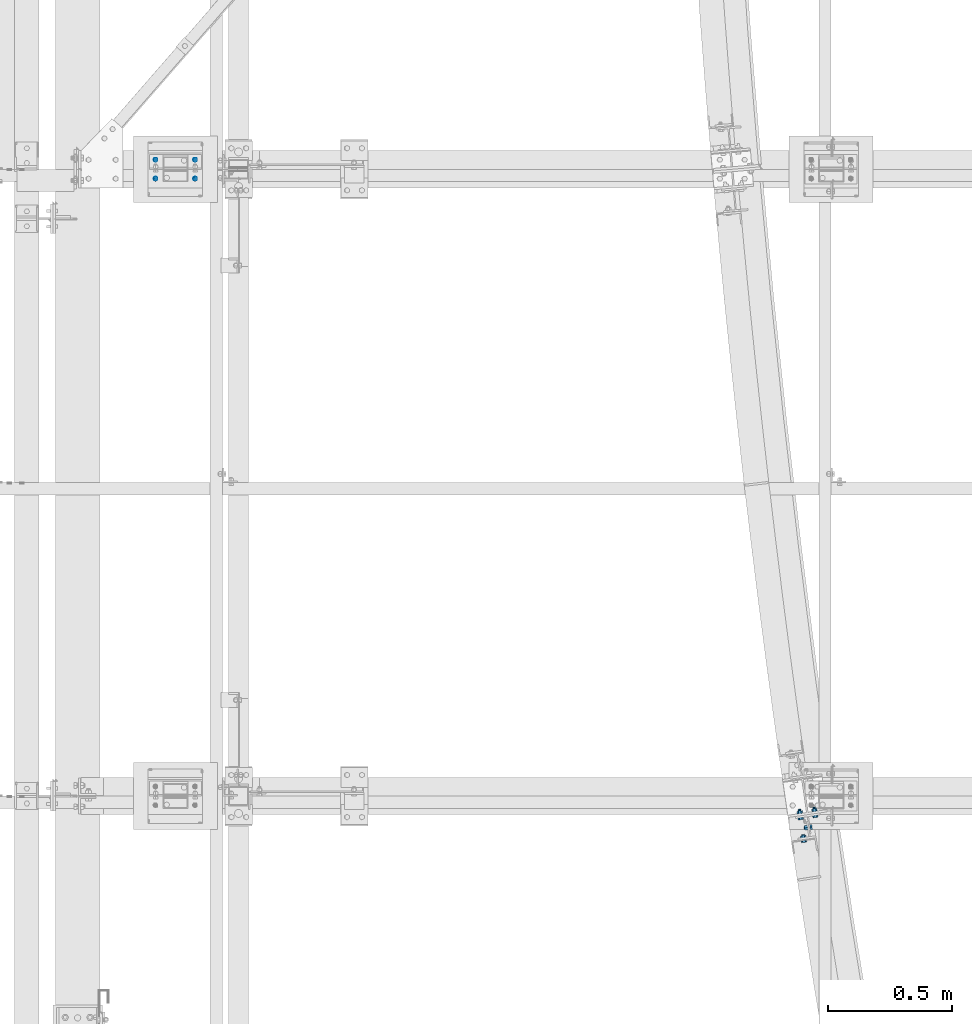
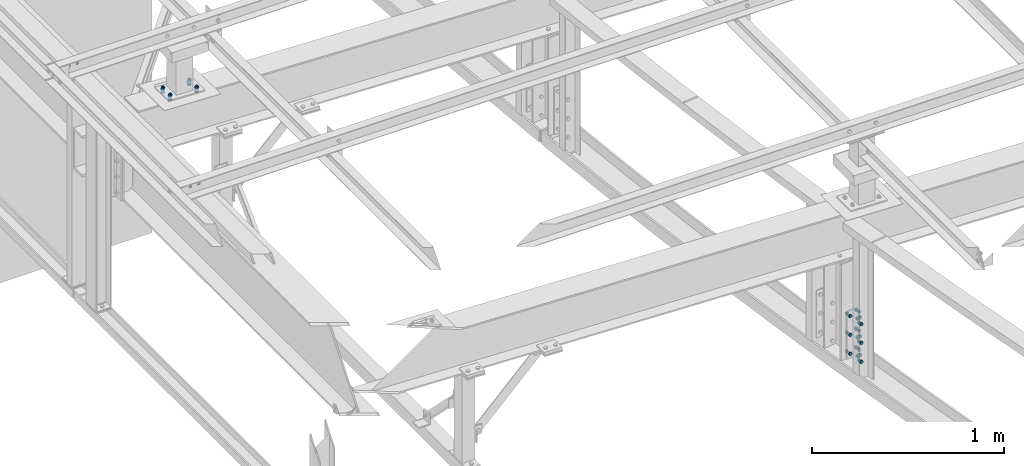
# One storey, part 71 of 3134: 5 mechanical fasteners, 4 elements without a shape of their own.
"""IFC2X3 building model written with IfcOpenShell, lengths in millimetres."""

from ifc_helpers import new_model, si_unit, frame, origin_with_axes, place, context, subcontext, project, spatial, faceted_brep, source, transform, mapped, material, type_object, element, aggregate, save


model = new_model("IFC2X3")

# Units and contexts
model_context = context("Model", 3, precision=1e-05, world=origin_with_axes())
body_context = subcontext(model_context, "Body", "Model", "MODEL_VIEW")
ifc_project = project(units=[si_unit("LENGTHUNIT", "METRE", prefix="MILLI"), si_unit("AREAUNIT", "SQUARE_METRE"), si_unit("VOLUMEUNIT", "CUBIC_METRE"), si_unit("MASSUNIT", "GRAM", prefix="KILO"), si_unit("TIMEUNIT", "SECOND"), si_unit("PLANEANGLEUNIT", "RADIAN"), si_unit("SOLIDANGLEUNIT", "STERADIAN"), si_unit("THERMODYNAMICTEMPERATUREUNIT", "DEGREE_CELSIUS"), si_unit("LUMINOUSINTENSITYUNIT", "LUMEN")], contexts=[model_context])

# Site, building, storey
site_placement = place(None, origin_with_axes())
site = spatial("IfcSite", under=ifc_project, at=site_placement, CompositionType="ELEMENT")
building_placement = place(site_placement, origin_with_axes())
building = spatial("IfcBuilding", under=site, at=building_placement, Name="Undefined", CompositionType="ELEMENT")
storey_placement = place(building_placement, origin_with_axes())
storey = spatial("IfcBuildingStorey", under=building, at=storey_placement, Name="Undefined", CompositionType="ELEMENT", Elevation=0.0)

# Assembly, mechanical fasteners
assembly_1_placement = place(storey_placement, origin_with_axes())
assembly_1 = element("IfcElementAssembly", 1, at=assembly_1_placement, inside=storey, AssemblyPlace="NOTDEFINED", PredefinedType="RIGID_FRAME")
ifc_material = material(Name="8.8")
mechanical_fastener_type = type_object("IfcMechanicalFastenerType", Name="Bolt assembly")
shared_shape_1 = source(origin_with_axes(), body_context, "Body", "Brep", [
    faceted_brep([(10.9696551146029, -12.9998476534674, 0.0), (5.48482755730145, -12.9998476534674, 9.5), (-5.48482755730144, -12.9998476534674, 9.5), (-10.9696551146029, -12.9998476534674, 1.34339530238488e-15), (-5.48482755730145, -12.9998476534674, -9.5), (5.48482755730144, -12.9998476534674, -9.50000000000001), (5.48482755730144, -4.99984765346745, -9.50000000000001), (-5.48482755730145, -4.99984765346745, -9.5), (-10.9696551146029, -4.99984765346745, 1.34339530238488e-15), (-5.48482755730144, -4.99984765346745, 9.5), (5.48482755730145, -4.99984765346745, 9.5), (10.9696551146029, -4.99984765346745, 0.0), (6.0, -4.99984765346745, 0.0), (5.19615242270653, -4.99984765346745, 3.00000000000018), (2.99999999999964, -4.99984765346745, 5.19615242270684), (-6.21801588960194e-13, -4.99984765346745, 6.0), (-3.00000000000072, -4.99984765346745, 5.19615242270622), (-5.19615242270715, -4.99984765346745, 2.9999999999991), (-6.0, -4.99984765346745, -1.24360317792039e-12), (-5.19615242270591, -4.99984765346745, -3.00000000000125), (-2.99999999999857, -4.99984765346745, -5.19615242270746), (1.85874342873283e-12, -4.99984765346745, -6.0), (3.00000000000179, -4.99984765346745, -5.1961524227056), (5.19615242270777, -4.99984765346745, -2.99999999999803), (5.19615242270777, 20.0001523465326, -2.99999999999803), (3.00000000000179, 20.0001523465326, -5.1961524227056), (1.85874342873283e-12, 20.0001523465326, -6.0), (-2.99999999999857, 20.0001523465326, -5.19615242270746), (-5.19615242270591, 20.0001523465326, -3.00000000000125), (-6.0, 20.0001523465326, -1.24360317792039e-12), (-5.19615242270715, 20.0001523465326, 2.9999999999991), (-3.00000000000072, 20.0001523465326, 5.19615242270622), (-6.21801588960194e-13, 20.0001523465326, 6.0), (2.99999999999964, 20.0001523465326, 5.19615242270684), (5.19615242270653, 20.0001523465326, 3.00000000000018), (6.0, 20.0001523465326, 0.0), (10.9696551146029, 4.99208388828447, 0.0), (5.48482755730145, 4.99208388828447, 9.5), (-5.48482755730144, 4.99208388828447, 9.5), (-10.9696551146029, 4.99208388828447, 1.34339530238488e-15), (-5.48482755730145, 4.99208388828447, -9.5), (5.48482755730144, 4.99208388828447, -9.50000000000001), (5.48482755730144, 14.9920838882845, -9.50000000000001), (-5.48482755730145, 14.9920838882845, -9.5), (-10.9696551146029, 14.9920838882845, 1.34339530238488e-15), (-5.48482755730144, 14.9920838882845, 9.5), (5.48482755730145, 14.9920838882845, 9.5), (10.9696551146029, 14.9920838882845, 0.0)], [[[0, 1, 2, 3, 4, 5]], [[6, 7, 8, 9, 10, 11]], [[0, 11, 10, 1]], [[1, 10, 9, 2]], [[2, 9, 8, 3]], [[3, 8, 7, 4]], [[4, 7, 6, 5]], [[5, 6, 11, 0]], [[12, 13, 14, 15, 16, 17, 18, 19, 20, 21, 22, 23]], [[24, 25, 26, 27, 28, 29, 30, 31, 32, 33, 34, 35]], [[12, 35, 34, 13]], [[13, 34, 33, 14]], [[14, 33, 32, 15]], [[15, 32, 31, 16]], [[16, 31, 30, 17]], [[17, 30, 29, 18]], [[18, 29, 28, 19]], [[19, 28, 27, 20]], [[20, 27, 26, 21]], [[21, 26, 25, 22]], [[22, 25, 24, 23]], [[23, 24, 35, 12]], [[36, 37, 38, 39, 40, 41]], [[42, 43, 44, 45, 46, 47]], [[36, 47, 46, 37]], [[37, 46, 45, 38]], [[38, 45, 44, 39]], [[39, 44, 43, 40]], [[40, 43, 42, 41]], [[41, 42, 47, 36]]]),
    faceted_brep([(7.0, -4.89984765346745, 0.0), (6.06217782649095, -4.89984765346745, 3.50000000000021), (3.49999999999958, -4.89984765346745, 6.06217782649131), (-7.25435187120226e-13, -4.89984765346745, 7.0), (-3.50000000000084, -4.89984765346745, 6.06217782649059), (-6.06217782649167, -4.89984765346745, 3.49999999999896), (-7.0, -4.89984765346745, -1.45087037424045e-12), (-6.06217782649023, -4.89984765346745, -3.50000000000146), (-3.49999999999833, -4.89984765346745, -6.06217782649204), (2.1685340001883e-12, -4.89984765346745, -7.0), (3.50000000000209, -4.89984765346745, -6.06217782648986), (6.0621778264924, -4.89984765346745, -3.4999999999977), (6.0621778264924, -0.899847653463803, -3.4999999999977), (3.50000000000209, -0.899847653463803, -6.06217782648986), (2.1685340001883e-12, -0.899847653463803, -7.0), (-3.49999999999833, -0.899847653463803, -6.06217782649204), (-6.06217782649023, -0.899847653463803, -3.50000000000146), (-7.0, -0.899847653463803, -1.45087037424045e-12), (-6.06217782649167, -0.899847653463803, 3.49999999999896), (-3.50000000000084, -0.899847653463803, 6.06217782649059), (-7.25435187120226e-13, -0.899847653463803, 7.0), (3.49999999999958, -0.899847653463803, 6.06217782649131), (6.06217782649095, -0.899847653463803, 3.50000000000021), (7.0, -0.899847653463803, 0.0), (7.0, -1.10791611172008, 0.0), (6.06217782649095, -1.10791611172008, 3.50000000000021), (3.49999999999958, -1.10791611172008, 6.06217782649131), (-7.25435187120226e-13, -1.10791611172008, 7.0), (-3.50000000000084, -1.10791611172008, 6.06217782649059), (-6.06217782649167, -1.10791611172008, 3.49999999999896), (-7.0, -1.10791611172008, -1.45087037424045e-12), (-6.06217782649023, -1.10791611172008, -3.50000000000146), (-3.49999999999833, -1.10791611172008, -6.06217782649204), (2.1685340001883e-12, -1.10791611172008, -7.0), (3.50000000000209, -1.10791611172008, -6.06217782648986), (6.0621778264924, -1.10791611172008, -3.4999999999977), (6.0621778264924, 4.99208388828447, -3.4999999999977), (3.50000000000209, 4.99208388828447, -6.06217782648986), (2.1685340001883e-12, 4.99208388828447, -7.0), (-3.49999999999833, 4.99208388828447, -6.06217782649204), (-6.06217782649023, 4.99208388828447, -3.50000000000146), (-7.0, 4.99208388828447, -1.45087037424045e-12), (-6.06217782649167, 4.99208388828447, 3.49999999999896), (-3.50000000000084, 4.99208388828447, 6.06217782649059), (-7.25435187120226e-13, 4.99208388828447, 7.0), (3.49999999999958, 4.99208388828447, 6.06217782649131), (6.06217782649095, 4.99208388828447, 3.50000000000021), (7.0, 4.99208388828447, 0.0)], [[[0, 1, 2, 3, 4, 5, 6, 7, 8, 9, 10, 11]], [[12, 13, 14, 15, 16, 17, 18, 19, 20, 21, 22, 23]], [[0, 23, 22, 1]], [[1, 22, 21, 2]], [[2, 21, 20, 3]], [[3, 20, 19, 4]], [[4, 19, 18, 5]], [[5, 18, 17, 6]], [[6, 17, 16, 7]], [[7, 16, 15, 8]], [[8, 15, 14, 9]], [[9, 14, 13, 10]], [[10, 13, 12, 11]], [[11, 12, 23, 0]], [[24, 25, 26, 27, 28, 29, 30, 31, 32, 33, 34, 35]], [[36, 37, 38, 39, 40, 41, 42, 43, 44, 45, 46, 47]], [[24, 47, 46, 25]], [[25, 46, 45, 26]], [[26, 45, 44, 27]], [[27, 44, 43, 28]], [[28, 43, 42, 29]], [[29, 42, 41, 30]], [[30, 41, 40, 31]], [[31, 40, 39, 32]], [[32, 39, 38, 33]], [[33, 38, 37, 34]], [[34, 37, 36, 35]], [[35, 36, 47, 24]]]),
])
mechanical_fastener_1_placement = place(assembly_1_placement, frame((2932.20668786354, 26869.2234813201, 3170.0), z_axis=(0.0, 0.0, 1.0), x_axis=(0.989606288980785, 0.143803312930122, 0.0)))
mechanical_fastener_1 = element("IfcMechanicalFastener", 2, at=mechanical_fastener_1_placement, type_object=mechanical_fastener_type, material=ifc_material, Name="Bolt assembly", NominalDiameter=12.0, NominalLength=25.0, context=body_context, shape_type="MappedRepresentation", body=[
    mapped(shared_shape_1, transform((0.0, 0.0, -120.0))),
    mapped(shared_shape_1, transform((0.0, 0.0, 0.0))),
    mapped(shared_shape_1, transform((0.0, 0.0, 120.0))),
])
shared_shape_2 = source(origin_with_axes(), body_context, "Body", "Brep", [
    faceted_brep([(10.9696551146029, -10.499999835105, 0.0), (5.48482755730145, -10.499999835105, 9.5), (-5.48482755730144, -10.499999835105, 9.5), (-10.9696551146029, -10.499999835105, 1.34339530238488e-15), (-5.48482755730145, -10.499999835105, -9.5), (5.48482755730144, -10.499999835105, -9.50000000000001), (5.48482755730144, -2.49999983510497, -9.50000000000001), (-5.48482755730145, -2.49999983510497, -9.5), (-10.9696551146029, -2.49999983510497, 1.34339530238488e-15), (-5.48482755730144, -2.49999983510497, 9.5), (5.48482755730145, -2.49999983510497, 9.5), (10.9696551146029, -2.49999983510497, 0.0), (6.0, -2.49999983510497, 0.0), (5.19615242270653, -2.49999983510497, 3.00000000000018), (2.99999999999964, -2.49999983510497, 5.19615242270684), (-6.21801588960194e-13, -2.49999983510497, 6.0), (-3.00000000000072, -2.49999983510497, 5.19615242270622), (-5.19615242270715, -2.49999983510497, 2.9999999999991), (-6.0, -2.49999983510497, -1.24360317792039e-12), (-5.19615242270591, -2.49999983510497, -3.00000000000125), (-2.99999999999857, -2.49999983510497, -5.19615242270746), (1.85874342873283e-12, -2.49999983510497, -6.0), (3.00000000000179, -2.49999983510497, -5.1961524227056), (5.19615242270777, -2.49999983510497, -2.99999999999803), (5.19615242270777, 22.5, -2.99999999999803), (3.00000000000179, 22.5, -5.1961524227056), (1.85874342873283e-12, 22.5, -6.0), (-2.99999999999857, 22.5, -5.19615242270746), (-5.19615242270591, 22.5, -3.00000000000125), (-6.0, 22.5, -1.24360317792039e-12), (-5.19615242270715, 22.5, 2.9999999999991), (-3.00000000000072, 22.5, 5.19615242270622), (-6.21801588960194e-13, 22.5, 6.0), (2.99999999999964, 22.5, 5.19615242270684), (5.19615242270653, 22.5, 3.00000000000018), (6.0, 22.5, 0.0), (10.9696551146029, 8.50160430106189, 0.0), (5.48482755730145, 8.50160430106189, 9.5), (-5.48482755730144, 8.50160430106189, 9.5), (-10.9696551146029, 8.50160430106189, 1.34339530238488e-15), (-5.48482755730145, 8.50160430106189, -9.5), (5.48482755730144, 8.50160430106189, -9.50000000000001), (5.48482755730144, 18.5016043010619, -9.50000000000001), (-5.48482755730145, 18.5016043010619, -9.5), (-10.9696551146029, 18.5016043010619, 1.34339530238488e-15), (-5.48482755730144, 18.5016043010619, 9.5), (5.48482755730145, 18.5016043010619, 9.5), (10.9696551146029, 18.5016043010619, 0.0)], [[[0, 1, 2, 3, 4, 5]], [[6, 7, 8, 9, 10, 11]], [[0, 11, 10, 1]], [[1, 10, 9, 2]], [[2, 9, 8, 3]], [[3, 8, 7, 4]], [[4, 7, 6, 5]], [[5, 6, 11, 0]], [[12, 13, 14, 15, 16, 17, 18, 19, 20, 21, 22, 23]], [[24, 25, 26, 27, 28, 29, 30, 31, 32, 33, 34, 35]], [[12, 35, 34, 13]], [[13, 34, 33, 14]], [[14, 33, 32, 15]], [[15, 32, 31, 16]], [[16, 31, 30, 17]], [[17, 30, 29, 18]], [[18, 29, 28, 19]], [[19, 28, 27, 20]], [[20, 27, 26, 21]], [[21, 26, 25, 22]], [[22, 25, 24, 23]], [[23, 24, 35, 12]], [[36, 37, 38, 39, 40, 41]], [[42, 43, 44, 45, 46, 47]], [[36, 47, 46, 37]], [[37, 46, 45, 38]], [[38, 45, 44, 39]], [[39, 44, 43, 40]], [[40, 43, 42, 41]], [[41, 42, 47, 36]]]),
    faceted_brep([(7.0, -2.39999983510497, 7.0), (6.46715672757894, -2.39999983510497, 9.6787840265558), (4.94974746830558, -2.39999983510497, 11.9497474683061), (-7.25435187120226e-13, -2.39999983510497, 14.0), (-3.50000000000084, -2.39999983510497, 13.0621778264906), (-6.06217782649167, -2.39999983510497, 10.499999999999), (-7.0, -2.39999983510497, 6.99999999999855), (-7.0, -2.39999983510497, -7.00000000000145), (-6.06217782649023, -2.39999983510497, -10.5000000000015), (-3.49999999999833, -2.39999983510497, -13.062177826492), (2.1685340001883e-12, -2.39999983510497, -14.0), (3.50000000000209, -2.39999983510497, -13.0621778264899), (6.0621778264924, -2.39999983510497, -10.4999999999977), (7.0, -2.39999983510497, -6.9999999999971), (7.0, 2.60000016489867, -6.9999999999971), (6.0621778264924, 2.60000016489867, -10.4999999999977), (3.50000000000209, 2.60000016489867, -13.0621778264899), (2.1685340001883e-12, 2.60000016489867, -14.0), (-3.49999999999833, 2.60000016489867, -13.062177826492), (-6.06217782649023, 2.60000016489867, -10.5000000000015), (-7.0, 2.60000016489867, -7.00000000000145), (-7.0, 2.60000016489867, 6.99999999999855), (-6.06217782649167, 2.60000016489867, 10.499999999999), (-3.50000000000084, 2.60000016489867, 13.0621778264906), (-7.25435187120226e-13, 2.60000016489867, 14.0), (2.67878402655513, 2.60000016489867, 13.4671567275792), (4.94974746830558, 2.60000016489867, 11.9497474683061), (6.46715672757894, 2.60000016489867, 9.6787840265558), (7.0, 2.60000016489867, 7.0), (2.67878402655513, -2.39999983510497, 13.4671567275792), (7.0, 2.40160430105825, 0.0), (6.06217782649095, 2.40160430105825, 3.50000000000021), (3.49999999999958, 2.40160430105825, 6.06217782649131), (-7.25435187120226e-13, 2.40160430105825, 7.0), (-3.50000000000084, 2.40160430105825, 6.06217782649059), (-6.06217782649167, 2.40160430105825, 3.49999999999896), (-7.0, 2.40160430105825, -1.45087037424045e-12), (-6.06217782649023, 2.40160430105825, -3.50000000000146), (-3.49999999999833, 2.40160430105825, -6.06217782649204), (2.1685340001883e-12, 2.40160430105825, -7.0), (3.50000000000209, 2.40160430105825, -6.06217782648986), (6.0621778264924, 2.40160430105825, -3.4999999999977), (6.0621778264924, 8.50160430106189, -3.4999999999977), (3.50000000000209, 8.50160430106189, -6.06217782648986), (2.1685340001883e-12, 8.50160430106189, -7.0), (-3.49999999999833, 8.50160430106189, -6.06217782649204), (-6.06217782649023, 8.50160430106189, -3.50000000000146), (-7.0, 8.50160430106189, -1.45087037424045e-12), (-6.06217782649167, 8.50160430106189, 3.49999999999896), (-3.50000000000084, 8.50160430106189, 6.06217782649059), (-7.25435187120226e-13, 8.50160430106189, 7.0), (3.49999999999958, 8.50160430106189, 6.06217782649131), (6.06217782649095, 8.50160430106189, 3.50000000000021), (7.0, 8.50160430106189, 0.0)], [[[0, 1, 2, 3, 4, 5, 6, 7, 8, 9, 10, 11, 12, 13]], [[14, 15, 16, 17, 18, 19, 20, 21, 22, 23, 24, 25, 26, 27, 28]], [[0, 28, 27, 1]], [[1, 27, 26, 2]], [[2, 26, 25, 29]], [[29, 25, 24, 3]], [[3, 24, 23, 4]], [[4, 23, 22, 5]], [[5, 22, 21, 6]], [[6, 21, 20, 7]], [[7, 20, 19, 8]], [[8, 19, 18, 9]], [[9, 18, 17, 10]], [[10, 17, 16, 11]], [[11, 16, 15, 12]], [[12, 15, 14, 13]], [[13, 14, 28, 0]], [[30, 31, 32, 33, 34, 35, 36, 37, 38, 39, 40, 41]], [[42, 43, 44, 45, 46, 47, 48, 49, 50, 51, 52, 53]], [[30, 53, 52, 31]], [[31, 52, 51, 32]], [[32, 51, 50, 33]], [[33, 50, 49, 34]], [[34, 49, 48, 35]], [[35, 48, 47, 36]], [[36, 47, 46, 37]], [[37, 46, 45, 38]], [[38, 45, 44, 39]], [[39, 44, 43, 40]], [[40, 43, 42, 41]], [[41, 42, 53, 30]]]),
])
mechanical_fastener_2_placement = place(assembly_1_placement, frame((2955.49619976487, 26917.5711503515, 3290.00065963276), z_axis=(-0.143803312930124, 0.989606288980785, 0.0), x_axis=(0.0, 0.0, -1.0)))
mechanical_fastener_2 = element("IfcMechanicalFastener", 3, at=mechanical_fastener_2_placement, type_object=mechanical_fastener_type, material=ifc_material, Name="Bolt assembly", NominalDiameter=12.0, NominalLength=25.0, context=body_context, shape_type="MappedRepresentation", body=[
    mapped(shared_shape_2, transform((0.0, 0.0, 0.0))),
    mapped(shared_shape_2, transform((120.0, 0.0, 0.0))),
    mapped(shared_shape_2, transform((240.0, 0.0, 0.0))),
])
aggregate(assembly_1, [mechanical_fastener_1, mechanical_fastener_2])

# Assembly, mechanical fastener
assembly_2_placement = place(storey_placement, origin_with_axes())
assembly_2 = element("IfcElementAssembly", 4, at=assembly_2_placement, inside=storey, Name="HEA160", AssemblyPlace="NOTDEFINED", PredefinedType="RIGID_FRAME")
shared_shape_3 = source(origin_with_axes(), body_context, "Body", "Brep", [
    faceted_brep([(10.9696551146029, -16.0, 0.0), (5.48482755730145, -16.0, 9.5), (-5.48482755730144, -16.0, 9.5), (-10.9696551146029, -16.0, 1.34339530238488e-15), (-5.48482755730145, -16.0, -9.5), (5.48482755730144, -16.0, -9.50000000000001), (5.48482755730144, -8.0, -9.50000000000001), (-5.48482755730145, -8.0, -9.5), (-10.9696551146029, -8.0, 1.34339530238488e-15), (-5.48482755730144, -8.0, 9.5), (5.48482755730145, -8.0, 9.5), (10.9696551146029, -8.0, 0.0), (6.0, -8.0, 0.0), (5.19615242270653, -8.0, 3.00000000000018), (2.99999999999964, -8.0, 5.19615242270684), (-6.21801588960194e-13, -8.0, 6.0), (-3.00000000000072, -8.0, 5.19615242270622), (-5.19615242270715, -8.0, 2.9999999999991), (-6.0, -8.0, -1.24360317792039e-12), (-5.19615242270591, -8.0, -3.00000000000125), (-2.99999999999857, -8.0, -5.19615242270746), (1.85874342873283e-12, -8.0, -6.0), (3.00000000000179, -8.0, -5.1961524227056), (5.19615242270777, -8.0, -2.99999999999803), (5.19615242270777, 27.0, -2.99999999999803), (3.00000000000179, 27.0, -5.1961524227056), (1.85874342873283e-12, 27.0, -6.0), (-2.99999999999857, 27.0, -5.19615242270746), (-5.19615242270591, 27.0, -3.00000000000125), (-6.0, 27.0, -1.24360317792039e-12), (-5.19615242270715, 27.0, 2.9999999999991), (-3.00000000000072, 27.0, 5.19615242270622), (-6.21801588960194e-13, 27.0, 6.0), (2.99999999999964, 27.0, 5.19615242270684), (5.19615242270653, 27.0, 3.00000000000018), (6.0, 27.0, 0.0), (10.9696551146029, 9.00000000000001, 0.0), (5.48482755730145, 9.00000000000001, 9.5), (-5.48482755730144, 9.00000000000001, 9.5), (-10.9696551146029, 9.00000000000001, 1.34339530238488e-15), (-5.48482755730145, 9.00000000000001, -9.5), (5.48482755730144, 9.00000000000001, -9.50000000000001), (5.48482755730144, 19.0, -9.50000000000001), (-5.48482755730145, 19.0, -9.5), (-10.9696551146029, 19.0, 1.34339530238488e-15), (-5.48482755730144, 19.0, 9.5), (5.48482755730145, 19.0, 9.5), (10.9696551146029, 19.0, 0.0)], [[[0, 1, 2, 3, 4, 5]], [[6, 7, 8, 9, 10, 11]], [[0, 11, 10, 1]], [[1, 10, 9, 2]], [[2, 9, 8, 3]], [[3, 8, 7, 4]], [[4, 7, 6, 5]], [[5, 6, 11, 0]], [[12, 13, 14, 15, 16, 17, 18, 19, 20, 21, 22, 23]], [[24, 25, 26, 27, 28, 29, 30, 31, 32, 33, 34, 35]], [[12, 35, 34, 13]], [[13, 34, 33, 14]], [[14, 33, 32, 15]], [[15, 32, 31, 16]], [[16, 31, 30, 17]], [[17, 30, 29, 18]], [[18, 29, 28, 19]], [[19, 28, 27, 20]], [[20, 27, 26, 21]], [[21, 26, 25, 22]], [[22, 25, 24, 23]], [[23, 24, 35, 12]], [[36, 37, 38, 39, 40, 41]], [[42, 43, 44, 45, 46, 47]], [[36, 47, 46, 37]], [[37, 46, 45, 38]], [[38, 45, 44, 39]], [[39, 44, 43, 40]], [[40, 43, 42, 41]], [[41, 42, 47, 36]]]),
    faceted_brep([(7.0, -7.9, 0.0), (6.06217782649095, -7.9, 3.50000000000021), (3.49999999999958, -7.9, 6.06217782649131), (-7.25435187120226e-13, -7.9, 7.0), (-3.50000000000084, -7.9, 6.06217782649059), (-6.06217782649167, -7.9, 3.49999999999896), (-7.0, -7.9, -1.45087037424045e-12), (-6.06217782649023, -7.9, -3.50000000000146), (-3.49999999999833, -7.9, -6.06217782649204), (2.1685340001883e-12, -7.9, -7.0), (3.50000000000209, -7.9, -6.06217782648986), (6.0621778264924, -7.9, -3.4999999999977), (6.0621778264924, 0.0999999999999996, -3.4999999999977), (3.50000000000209, 0.0999999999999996, -6.06217782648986), (2.1685340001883e-12, 0.0999999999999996, -7.0), (-3.49999999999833, 0.0999999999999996, -6.06217782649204), (-6.06217782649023, 0.0999999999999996, -3.50000000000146), (-7.0, 0.0999999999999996, -1.45087037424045e-12), (-6.06217782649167, 0.0999999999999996, 3.49999999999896), (-3.50000000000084, 0.0999999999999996, 6.06217782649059), (-7.25435187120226e-13, 0.0999999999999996, 7.0), (3.49999999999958, 0.0999999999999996, 6.06217782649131), (6.06217782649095, 0.0999999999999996, 3.50000000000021), (7.0, 0.0999999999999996, 0.0), (7.0, -0.1, 0.0), (6.06217782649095, -0.1, 3.50000000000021), (3.49999999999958, -0.1, 6.06217782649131), (-7.25435187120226e-13, -0.1, 7.0), (-3.50000000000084, -0.1, 6.06217782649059), (-6.06217782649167, -0.1, 3.49999999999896), (-7.0, -0.1, -1.45087037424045e-12), (-6.06217782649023, -0.1, -3.50000000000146), (-3.49999999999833, -0.1, -6.06217782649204), (2.1685340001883e-12, -0.1, -7.0), (3.50000000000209, -0.1, -6.06217782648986), (6.0621778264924, -0.1, -3.4999999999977), (6.0621778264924, 9.00000000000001, -3.4999999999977), (3.50000000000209, 9.00000000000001, -6.06217782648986), (2.1685340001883e-12, 9.00000000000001, -7.0), (-3.49999999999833, 9.00000000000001, -6.06217782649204), (-6.06217782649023, 9.00000000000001, -3.50000000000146), (-7.0, 9.00000000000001, -1.45087037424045e-12), (-6.06217782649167, 9.00000000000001, 3.49999999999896), (-3.50000000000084, 9.00000000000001, 6.06217782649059), (-7.25435187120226e-13, 9.00000000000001, 7.0), (3.49999999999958, 9.00000000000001, 6.06217782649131), (6.06217782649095, 9.00000000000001, 3.50000000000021), (7.0, 9.00000000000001, 0.0)], [[[0, 1, 2, 3, 4, 5, 6, 7, 8, 9, 10, 11]], [[12, 13, 14, 15, 16, 17, 18, 19, 20, 21, 22, 23]], [[0, 23, 22, 1]], [[1, 22, 21, 2]], [[2, 21, 20, 3]], [[3, 20, 19, 4]], [[4, 19, 18, 5]], [[5, 18, 17, 6]], [[6, 17, 16, 7]], [[7, 16, 15, 8]], [[8, 15, 14, 9]], [[9, 14, 13, 10]], [[10, 13, 12, 11]], [[11, 12, 23, 0]], [[24, 25, 26, 27, 28, 29, 30, 31, 32, 33, 34, 35]], [[36, 37, 38, 39, 40, 41, 42, 43, 44, 45, 46, 47]], [[24, 47, 46, 25]], [[25, 46, 45, 26]], [[26, 45, 44, 27]], [[27, 44, 43, 28]], [[28, 43, 42, 29]], [[29, 42, 41, 30]], [[30, 41, 40, 31]], [[31, 40, 39, 32]], [[32, 39, 38, 33]], [[33, 38, 37, 34]], [[34, 37, 36, 35]], [[35, 36, 47, 24]]]),
])
mechanical_fastener_3_placement = place(assembly_2_placement, frame((2918.40156982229, 26964.2256850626, 3170.0), z_axis=(0.0, 0.0, 1.0), x_axis=(0.989606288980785, 0.143803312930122, 0.0)))
mechanical_fastener_3 = element("IfcMechanicalFastener", 5, at=mechanical_fastener_3_placement, type_object=mechanical_fastener_type, material=ifc_material, Name="Bolt assembly", NominalDiameter=12.0, NominalLength=35.0, context=body_context, shape_type="MappedRepresentation", body=[
    mapped(shared_shape_3, transform((0.0, 0.0, -120.0))),
    mapped(shared_shape_3, transform((60.0000000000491, 0.0, -120.0))),
    mapped(shared_shape_3, transform((0.0, 0.0, 0.0))),
    mapped(shared_shape_3, transform((59.9999999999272, 0.0, 5.40239852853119e-10))),
    mapped(shared_shape_3, transform((0.0, 0.0, 120.0))),
    mapped(shared_shape_3, transform((60.0000000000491, 0.0, 120.0))),
])
aggregate(assembly_2, [mechanical_fastener_3])

assembly_3_placement = place(storey_placement, origin_with_axes())
assembly_3 = element("IfcElementAssembly", 6, at=assembly_3_placement, inside=storey, AssemblyPlace="NOTDEFINED", PredefinedType="RIGID_FRAME")
shared_shape_4 = source(origin_with_axes(), body_context, "Body", "Brep", [
    faceted_brep([(10.9696551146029, -4.19432770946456, 0.0), (5.48482755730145, -4.19432770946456, 9.5), (-5.48482755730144, -4.19432770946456, 9.5), (-10.9696551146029, -4.19432770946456, 1.34339530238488e-15), (-5.48482755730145, -4.19432770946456, -9.5), (5.48482755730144, -4.19432770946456, -9.50000000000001), (5.48482755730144, 3.80567229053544, -9.50000000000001), (-5.48482755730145, 3.80567229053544, -9.5), (-10.9696551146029, 3.80567229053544, 1.34339530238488e-15), (-5.48482755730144, 3.80567229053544, 9.5), (5.48482755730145, 3.80567229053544, 9.5), (10.9696551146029, 3.80567229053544, 0.0), (6.0, 3.80567229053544, 0.0), (5.19615242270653, 3.80567229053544, 3.00000000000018), (2.99999999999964, 3.80567229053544, 5.19615242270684), (-6.21801588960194e-13, 3.80567229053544, 6.0), (-3.00000000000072, 3.80567229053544, 5.19615242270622), (-5.19615242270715, 3.80567229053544, 2.9999999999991), (-6.0, 3.80567229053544, -1.24360317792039e-12), (-5.19615242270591, 3.80567229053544, -3.00000000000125), (-2.99999999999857, 3.80567229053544, -5.19615242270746), (1.85874342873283e-12, 3.80567229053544, -6.0), (3.00000000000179, 3.80567229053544, -5.1961524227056), (5.19615242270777, 3.80567229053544, -2.99999999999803), (5.19615242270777, 38.8056722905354, -2.99999999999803), (3.00000000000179, 38.8056722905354, -5.1961524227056), (1.85874342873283e-12, 38.8056722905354, -6.0), (-2.99999999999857, 38.8056722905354, -5.19615242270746), (-5.19615242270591, 38.8056722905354, -3.00000000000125), (-6.0, 38.8056722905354, -1.24360317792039e-12), (-5.19615242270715, 38.8056722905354, 2.9999999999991), (-3.00000000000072, 38.8056722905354, 5.19615242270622), (-6.21801588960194e-13, 38.8056722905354, 6.0), (2.99999999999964, 38.8056722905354, 5.19615242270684), (5.19615242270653, 38.8056722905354, 3.00000000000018), (6.0, 38.8056722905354, 0.0), (10.9696551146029, 23.0139082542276, 0.0), (5.48482755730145, 23.0139082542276, 9.5), (-5.48482755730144, 23.0139082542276, 9.5), (-10.9696551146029, 23.0139082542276, 1.34339530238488e-15), (-5.48482755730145, 23.0139082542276, -9.5), (5.48482755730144, 23.0139082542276, -9.50000000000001), (5.48482755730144, 33.0139082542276, -9.50000000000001), (-5.48482755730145, 33.0139082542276, -9.5), (-10.9696551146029, 33.0139082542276, 1.34339530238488e-15), (-5.48482755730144, 33.0139082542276, 9.5), (5.48482755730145, 33.0139082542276, 9.5), (10.9696551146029, 33.0139082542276, 0.0)], [[[0, 1, 2, 3, 4, 5]], [[6, 7, 8, 9, 10, 11]], [[0, 11, 10, 1]], [[1, 10, 9, 2]], [[2, 9, 8, 3]], [[3, 8, 7, 4]], [[4, 7, 6, 5]], [[5, 6, 11, 0]], [[12, 13, 14, 15, 16, 17, 18, 19, 20, 21, 22, 23]], [[24, 25, 26, 27, 28, 29, 30, 31, 32, 33, 34, 35]], [[12, 35, 34, 13]], [[13, 34, 33, 14]], [[14, 33, 32, 15]], [[15, 32, 31, 16]], [[16, 31, 30, 17]], [[17, 30, 29, 18]], [[18, 29, 28, 19]], [[19, 28, 27, 20]], [[20, 27, 26, 21]], [[21, 26, 25, 22]], [[22, 25, 24, 23]], [[23, 24, 35, 12]], [[36, 37, 38, 39, 40, 41]], [[42, 43, 44, 45, 46, 47]], [[36, 47, 46, 37]], [[37, 46, 45, 38]], [[38, 45, 44, 39]], [[39, 44, 43, 40]], [[40, 43, 42, 41]], [[41, 42, 47, 36]]]),
    faceted_brep([(7.0, 3.90567229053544, 0.0), (6.06217782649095, 3.90567229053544, 3.50000000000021), (3.49999999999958, 3.90567229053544, 6.06217782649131), (-7.25435187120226e-13, 3.90567229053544, 7.0), (-3.50000000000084, 3.90567229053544, 6.06217782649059), (-6.06217782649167, 3.90567229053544, 3.49999999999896), (-7.0, 3.90567229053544, -1.45087037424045e-12), (-6.06217782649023, 3.90567229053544, -3.50000000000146), (-3.49999999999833, 3.90567229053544, -6.06217782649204), (2.1685340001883e-12, 3.90567229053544, -7.0), (3.50000000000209, 3.90567229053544, -6.06217782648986), (6.0621778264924, 3.90567229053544, -3.4999999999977), (6.0621778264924, 13.1056721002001, -3.4999999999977), (3.50000000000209, 13.1056721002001, -6.06217782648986), (2.1685340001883e-12, 13.1056721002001, -7.0), (-3.49999999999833, 13.1056721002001, -6.06217782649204), (-6.06217782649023, 13.1056721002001, -3.50000000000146), (-7.0, 13.1056721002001, -1.45087037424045e-12), (-6.06217782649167, 13.1056721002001, 3.49999999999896), (-3.50000000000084, 13.1056721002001, 6.06217782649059), (-7.25435187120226e-13, 13.1056721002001, 7.0), (3.49999999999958, 13.1056721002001, 6.06217782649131), (6.06217782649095, 13.1056721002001, 3.50000000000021), (7.0, 13.1056721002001, 0.0), (7.0, 14.9139082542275, 0.0), (6.06217782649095, 14.9139082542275, 3.50000000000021), (3.49999999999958, 14.9139082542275, 6.06217782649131), (-7.25435187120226e-13, 14.9139082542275, 7.0), (-3.50000000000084, 14.9139082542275, 6.06217782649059), (-6.06217782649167, 14.9139082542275, 3.49999999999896), (-7.0, 14.9139082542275, -1.45087037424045e-12), (-6.06217782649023, 14.9139082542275, -3.50000000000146), (-3.49999999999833, 14.9139082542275, -6.06217782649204), (2.1685340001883e-12, 14.9139082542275, -7.0), (3.50000000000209, 14.9139082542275, -6.06217782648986), (6.0621778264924, 14.9139082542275, -3.4999999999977), (6.0621778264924, 23.0139082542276, -3.4999999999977), (3.50000000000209, 23.0139082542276, -6.06217782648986), (2.1685340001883e-12, 23.0139082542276, -7.0), (-3.49999999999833, 23.0139082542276, -6.06217782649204), (-6.06217782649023, 23.0139082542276, -3.50000000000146), (-7.0, 23.0139082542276, -1.45087037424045e-12), (-6.06217782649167, 23.0139082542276, 3.49999999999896), (-3.50000000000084, 23.0139082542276, 6.06217782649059), (-7.25435187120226e-13, 23.0139082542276, 7.0), (3.49999999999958, 23.0139082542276, 6.06217782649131), (6.06217782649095, 23.0139082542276, 3.50000000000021), (7.0, 23.0139082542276, 0.0)], [[[0, 1, 2, 3, 4, 5, 6, 7, 8, 9, 10, 11]], [[12, 13, 14, 15, 16, 17, 18, 19, 20, 21, 22, 23]], [[0, 23, 22, 1]], [[1, 22, 21, 2]], [[2, 21, 20, 3]], [[3, 20, 19, 4]], [[4, 19, 18, 5]], [[5, 18, 17, 6]], [[6, 17, 16, 7]], [[7, 16, 15, 8]], [[8, 15, 14, 9]], [[9, 14, 13, 10]], [[10, 13, 12, 11]], [[11, 12, 23, 0]], [[24, 25, 26, 27, 28, 29, 30, 31, 32, 33, 34, 35]], [[36, 37, 38, 39, 40, 41, 42, 43, 44, 45, 46, 47]], [[24, 47, 46, 25]], [[25, 46, 45, 26]], [[26, 45, 44, 27]], [[27, 44, 43, 28]], [[28, 43, 42, 29]], [[29, 42, 41, 30]], [[30, 41, 40, 31]], [[31, 40, 39, 32]], [[32, 39, 38, 33]], [[33, 38, 37, 34]], [[34, 37, 36, 35]], [[35, 36, 47, 24]]]),
])
mechanical_fastener_4_placement = place(assembly_3_placement, frame((394.193176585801, 29612.9999999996, 4013.19000668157), z_axis=(-0.999387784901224, 0.0, 0.0349865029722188), x_axis=(0.0, -1.0, 0.0)))
mechanical_fastener_4 = element("IfcMechanicalFastener", 7, at=mechanical_fastener_4_placement, type_object=mechanical_fastener_type, material=ifc_material, Name="Bolt assembly", NominalDiameter=12.0, NominalLength=35.0, context=body_context, shape_type="MappedRepresentation", body=[
    mapped(shared_shape_4, transform((0.0, -5.32963895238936e-10, -79.9999999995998))),
    mapped(shared_shape_4, transform((76.0, -5.32963895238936e-10, -79.9999999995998))),
    mapped(shared_shape_4, transform((0.0, 5.3114490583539e-10, 79.9999999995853))),
    mapped(shared_shape_4, transform((76.0, 5.3114490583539e-10, 79.9999999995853))),
])
aggregate(assembly_3, [mechanical_fastener_4])

assembly_4_placement = place(storey_placement, origin_with_axes())
assembly_4 = element("IfcElementAssembly", 8, at=assembly_4_placement, inside=storey, AssemblyPlace="NOTDEFINED", PredefinedType="RIGID_FRAME")
shared_shape_5 = source(origin_with_axes(), body_context, "Body", "Brep", [
    faceted_brep([(7.0, 13.0000253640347, 0.0), (6.06217782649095, 13.0000253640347, 3.50000000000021), (3.49999999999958, 13.0000253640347, 6.06217782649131), (-7.25435187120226e-13, 13.0000253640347, 7.0), (-3.50000000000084, 13.0000253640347, 6.06217782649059), (-6.06217782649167, 13.0000253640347, 3.49999999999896), (-7.0, 13.0000253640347, -1.45087037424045e-12), (-6.06217782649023, 13.0000253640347, -3.50000000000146), (-3.49999999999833, 13.0000253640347, -6.06217782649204), (2.1685340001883e-12, 13.0000253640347, -7.0), (3.50000000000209, 13.0000253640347, -6.06217782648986), (6.0621778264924, 13.0000253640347, -3.4999999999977), (6.0621778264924, 15.0999999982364, -3.4999999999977), (3.50000000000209, 15.0999999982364, -6.06217782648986), (2.1685340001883e-12, 15.0999999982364, -7.0), (-3.49999999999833, 15.0999999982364, -6.06217782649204), (-6.06217782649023, 15.0999999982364, -3.50000000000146), (-7.0, 15.0999999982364, -1.45087037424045e-12), (-6.06217782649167, 15.0999999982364, 3.49999999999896), (-3.50000000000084, 15.0999999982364, 6.06217782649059), (-7.25435187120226e-13, 15.0999999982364, 7.0), (3.49999999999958, 15.0999999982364, 6.06217782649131), (6.06217782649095, 15.0999999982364, 3.50000000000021), (7.0, 15.0999999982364, 0.0)], [[[0, 1, 2, 3, 4, 5, 6, 7, 8, 9, 10, 11]], [[12, 13, 14, 15, 16, 17, 18, 19, 20, 21, 22, 23]], [[0, 23, 22, 1]], [[1, 22, 21, 2]], [[2, 21, 20, 3]], [[3, 20, 19, 4]], [[4, 19, 18, 5]], [[5, 18, 17, 6]], [[6, 17, 16, 7]], [[7, 16, 15, 8]], [[8, 15, 14, 9]], [[9, 14, 13, 10]], [[10, 13, 12, 11]], [[11, 12, 23, 0]]]),
])
mechanical_fastener_5_placement = place(assembly_4_placement, frame((394.193176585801, 29612.9999999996, 4013.19000668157), z_axis=(-0.999387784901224, 0.0, 0.0349865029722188), x_axis=(0.0, -1.0, 0.0)))
mechanical_fastener_5 = element("IfcMechanicalFastener", 9, at=mechanical_fastener_5_placement, type_object=mechanical_fastener_type, material=ifc_material, Name="Bolt assembly", NominalDiameter=12.0, NominalLength=2.0, context=body_context, shape_type="MappedRepresentation", body=[
    mapped(shared_shape_5, transform((0.0, -5.32963895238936e-10, -79.9999999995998))),
    mapped(shared_shape_5, transform((76.0, -5.32963895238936e-10, -79.9999999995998))),
    mapped(shared_shape_5, transform((0.0, 5.3114490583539e-10, 79.9999999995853))),
    mapped(shared_shape_5, transform((76.0, 5.3114490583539e-10, 79.9999999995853))),
])
aggregate(assembly_4, [mechanical_fastener_5])

save(model, "model.ifc")
